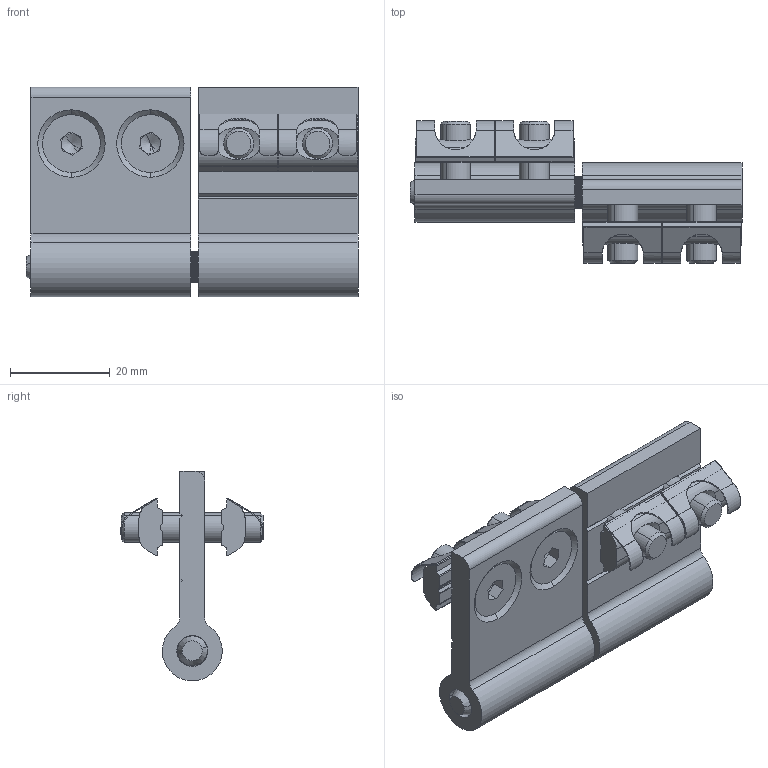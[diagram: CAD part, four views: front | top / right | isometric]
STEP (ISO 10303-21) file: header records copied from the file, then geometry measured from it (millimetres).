
FILE_DESCRIPTION (( 'STEP AP214' ), '1' );
FILE_NAME ('1.4050 Sarana 40-40.STEP', '2025-09-15T08:19:58', ( '' ), ( '' ), 'SwSTEP 2.0', 'SolidWorks 2025', '' );
FILE_SCHEMA (( 'AUTOMOTIVE_DESIGN' ));
Length unit declared in the file: millimetre
Products named in the file (1): 1.4050 Sarana 40-40
Bounding box: 66.5 x 28.59 x 42 mm (x, y, z)
Volume: 19844.5 mm3; surface area: 14916.5 mm2
Topology: 11 solids, 11 shells, 752 faces, 1902 edges, 1228 vertices
Faces by surface type: plane 492, cylinder 208, cone 44, torus 8
Entity records: 31351 total; most frequent: CARTESIAN_POINT 4623, DIRECTION 3852, ORIENTED_EDGE 3788, EDGE_CURVE 1894, AXIS2_PLACEMENT_3D 1337, VERTEX_POINT 1228, LINE 1178, VECTOR 1178
